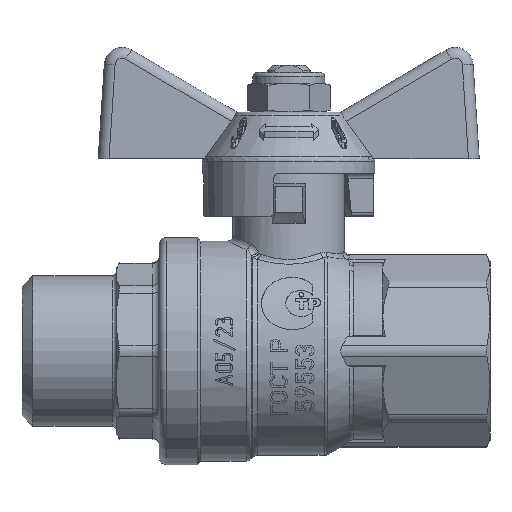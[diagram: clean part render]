
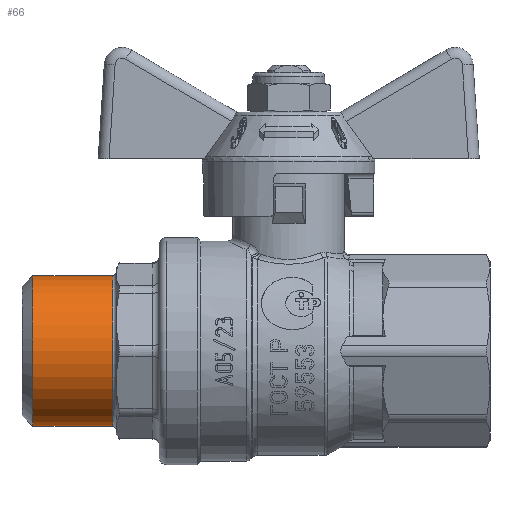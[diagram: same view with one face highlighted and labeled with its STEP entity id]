
A CAD part, left-side view. The second image highlights one B-rep face of the part: STEP entity #66.
In plain terms, the highlighted cylindrical face has radius 10.477 mm (diameter 20.955 mm), a full revolution.
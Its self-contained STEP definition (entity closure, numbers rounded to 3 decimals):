
#66=ADVANCED_FACE('',(#1542,#1544),#1546,.T.);
#1542=FACE_OUTER_BOUND('',#1543,.T.);
#1543=EDGE_LOOP('',(#10856));
#1544=FACE_OUTER_BOUND('',#1545,.T.);
#1545=EDGE_LOOP('',(#10857));
#1546=CYLINDRICAL_SURFACE('',#1547,10.478);
#1547=AXIS2_PLACEMENT_3D('',#1548,#1549,#1550);
#1548=CARTESIAN_POINT('',(0.,0.,0.));
#1549=DIRECTION('',(0.,1.,0.));
#1550=DIRECTION('',(-1.,0.,0.));
#10856=ORIENTED_EDGE('',*,*,#19286,.F.);
#10857=ORIENTED_EDGE('',*,*,#19288,.T.);
#19286=EDGE_CURVE('',#22941,#22941,#22942,.T.);
#19288=EDGE_CURVE('',#22945,#22945,#22946,.T.);
#22941=VERTEX_POINT('',#29200);
#22942=CIRCLE('',#29201,10.478);
#22945=VERTEX_POINT('',#29210);
#22946=CIRCLE('',#29211,10.478);
#29200=CARTESIAN_POINT('',(-10.478,20.1,0.));
#29201=AXIS2_PLACEMENT_3D('',#29202,#29203,#29204);
#29202=CARTESIAN_POINT('',(0.,20.1,0.));
#29203=DIRECTION('',(0.,1.,0.));
#29204=DIRECTION('',(-1.,0.,0.));
#29210=CARTESIAN_POINT('',(-10.478,9.,0.));
#29211=AXIS2_PLACEMENT_3D('',#29212,#29213,#29214);
#29212=CARTESIAN_POINT('',(0.,9.,0.));
#29213=DIRECTION('',(0.,1.,0.));
#29214=DIRECTION('',(-1.,0.,0.));
